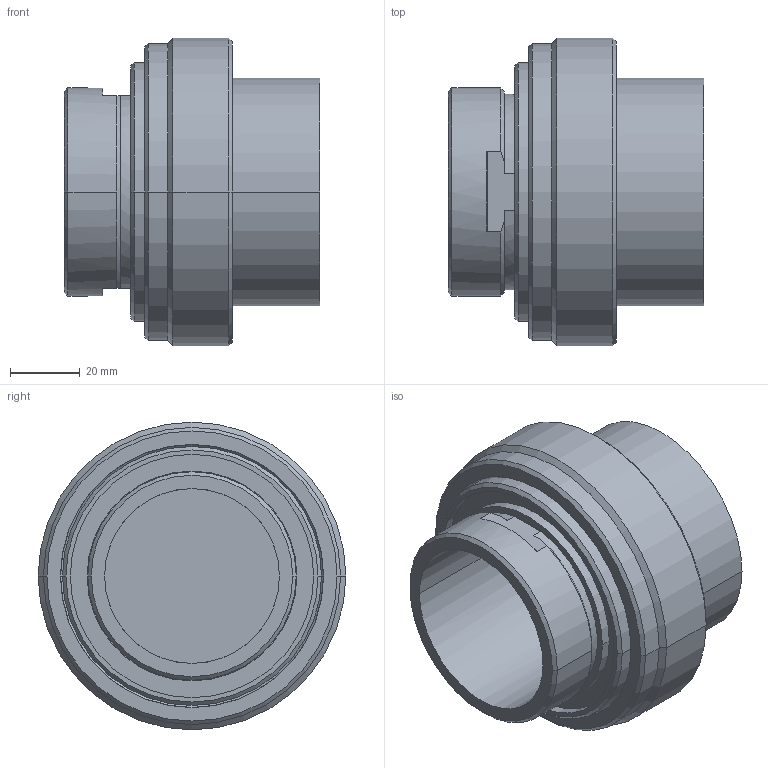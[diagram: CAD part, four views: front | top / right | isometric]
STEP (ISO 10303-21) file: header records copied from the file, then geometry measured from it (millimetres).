
FILE_DESCRIPTION((''),'2;1');
FILE_NAME('71118025_ASM','2012-04-24T',('LVVCSAVA'),('Copyright by Leybold GmbH'),'PRO/ENGINEER BY PARAMETRIC TECHNOLOGY CORPORATION, 2010430','PRO/ENGINEER BY PARAMETRIC TECHNOLOGY CORPORATION, 2010430','');
FILE_SCHEMA(('AUTOMOTIVE_DESIGN { 1 0 10303 214 1 1 1 1 }'));
Length unit declared in the file: millimetre
Products named in the file (4): 71231733; 71231723; 71231743; 71118025_ASM
Assembly tree (3 placements, depth 2):
  71118025_ASM
    71231733
    71231723
    71231743
Bounding box: 73 x 88 x 88 mm (x, y, z)
Volume: 134060 mm3; surface area: 72636.6 mm2
Topology: 3 solids, 5 shells, 100 faces, 230 edges, 146 vertices
Faces by surface type: cylinder 46, plane 34, cone 20
Entity records: 3762 total; most frequent: CARTESIAN_POINT 618, DIRECTION 552, ORIENTED_EDGE 456, EDGE_CURVE 230, AXIS2_PLACEMENT_3D 223, VERTEX_POINT 146, PROPERTY_DEFINITION 121, REPRESENTATION 116
